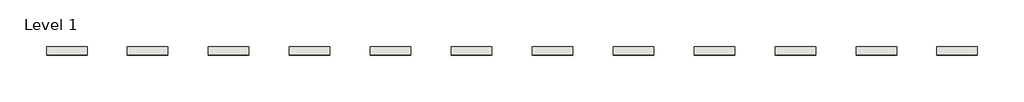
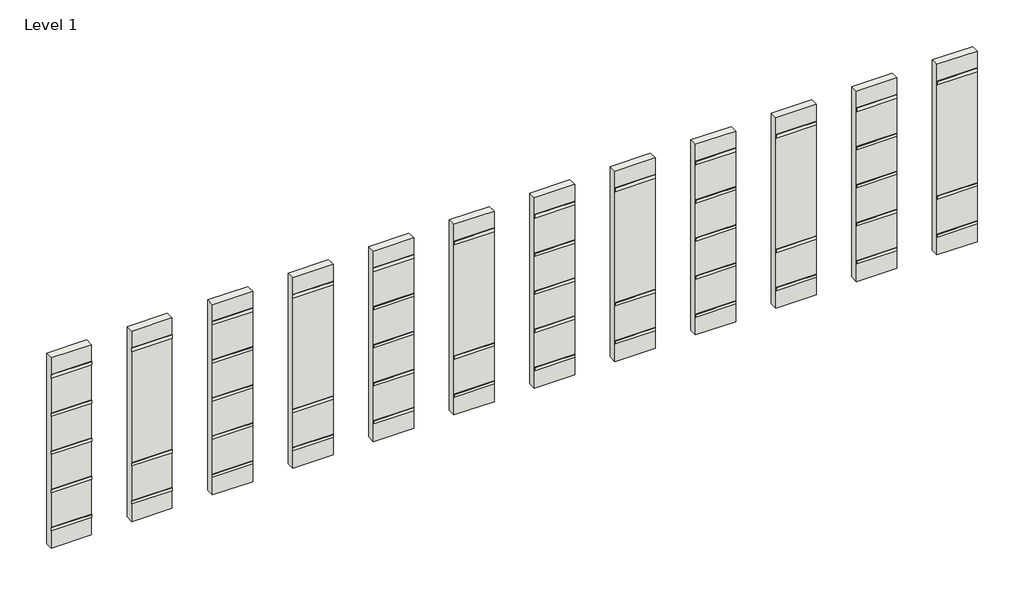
# One storey: 48 coverings, 12 walls.
"""IFC4 building model written with IfcOpenShell, lengths in millimetres."""

from ifc_helpers import new_model, si_unit, point, frame, frame_2d, origin, place, context, project, spatial, polyline, circle_curve, trimmed, segment, composite_curve, outline, extrude, element, save

model = new_model("IFC4")

# Units and contexts
model_context = context("Model", 3, world=origin())
ifc_project = project(units=[si_unit("LENGTHUNIT", "METRE", prefix="MILLI")], contexts=[model_context])

# Site, building, storey
site = spatial("IfcSite", under=ifc_project)
building = spatial("IfcBuilding", under=site)
storey = spatial("IfcBuildingStorey", under=building, Name="Level 1", Elevation=0.0)

# Coverings
placement = place(None, origin())
element("IfcCovering", 1, ObjectType="REVIGRES-URBAN-RB-8X45-RECT-ANTRACITE", at=placement, inside=storey, context=model_context, shape_type="SweptSolid", body=[
    extrude(outline(composite_curve([segment(polyline([(-6973.1153225, -25679.4779794), (-6982.9153225, -25679.4779794), (-6982.9153225, -25609.2779794)]), True, "CONTINUOUS"), segment(trimmed(circle_curve(frame_2d((-6973.1153225, -25609.2779794)), 9.8), [point((-6982.9153225, -25609.2779794))], [point((-6973.1153225, -25599.4779794))], False, "CARTESIAN"), True, "CONTINUOUS"), segment(polyline([(-6973.1153225, -25599.4779794), (-6973.1153225, -25679.4779794)]), True, "CONTINUOUS")], self_intersect=False)), frame((5592.0023157, 0.0, 0.0), z_axis=(1.0, 0.0, 0.0), x_axis=(0.0, 1.0, 0.0)), (0.0, 0.0, 1.0), 1000.0),
])
element("IfcCovering", 2, ObjectType="REVIGRES-URBAN-RB-8X60-RECT-ANTRACITE", at=placement, inside=storey, context=model_context, shape_type="SweptSolid", body=[
    extrude(outline(composite_curve([segment(polyline([(-6973.1153225, -24679.4779794), (-6981.6153225, -24679.4779794), (-6981.6153225, -24607.9779794)]), True, "CONTINUOUS"), segment(trimmed(circle_curve(frame_2d((-6973.1153225, -24607.9779794)), 8.5), [point((-6981.6153225, -24607.9779794))], [point((-6973.1153225, -24599.4779794))], False, "CARTESIAN"), True, "CONTINUOUS"), segment(polyline([(-6973.1153225, -24599.4779794), (-6973.1153225, -24679.4779794)]), True, "CONTINUOUS")], self_intersect=False)), frame((5592.0023157, 0.0, 0.0), z_axis=(1.0, 0.0, 0.0), x_axis=(0.0, 1.0, 0.0)), (0.0, 0.0, 1.0), 1000.0),
])
element("IfcCovering", 3, ObjectType="REVIGRES-URBAN-RB-8X90-RECT-ANTRACITE", at=placement, inside=storey, context=model_context, shape_type="SweptSolid", body=[
    extrude(outline(composite_curve([segment(polyline([(-6973.1153225, -23679.4779794), (-6983.6153225, -23679.4779794), (-6983.6153225, -23609.9779794)]), True, "CONTINUOUS"), segment(trimmed(circle_curve(frame_2d((-6973.1153225, -23609.9779794)), 10.5), [point((-6983.6153225, -23609.9779794))], [point((-6973.1153225, -23599.4779794))], False, "CARTESIAN"), True, "CONTINUOUS"), segment(polyline([(-6973.1153225, -23599.4779794), (-6973.1153225, -23679.4779794)]), True, "CONTINUOUS")], self_intersect=False)), frame((5592.0023157, 0.0, 0.0), z_axis=(1.0, 0.0, 0.0), x_axis=(0.0, 1.0, 0.0)), (0.0, 0.0, 1.0), 1000.0),
])
element("IfcCovering", 4, ObjectType="REVIGRES-URBAN-RB-8X120-RECT-ANTRACITE", at=placement, inside=storey, context=model_context, shape_type="SweptSolid", body=[
    extrude(outline(composite_curve([segment(polyline([(-6973.1153225, -22679.4779794), (-6982.9153225, -22679.4779794), (-6982.9153225, -22609.2779794)]), True, "CONTINUOUS"), segment(trimmed(circle_curve(frame_2d((-6973.1153225, -22609.2779794)), 9.8), [point((-6982.9153225, -22609.2779794))], [point((-6973.1153225, -22599.4779794))], False, "CARTESIAN"), True, "CONTINUOUS"), segment(polyline([(-6973.1153225, -22599.4779794), (-6973.1153225, -22679.4779794)]), True, "CONTINUOUS")], self_intersect=False)), frame((5592.0023157, 0.0, 0.0), z_axis=(1.0, 0.0, 0.0), x_axis=(0.0, 1.0, 0.0)), (0.0, 0.0, 1.0), 1000.0),
])
element("IfcCovering", 5, ObjectType="REVIGRES-URBAN-RB-9.5X30-RECT-ANTRACITE", at=placement, inside=storey, context=model_context, shape_type="SweptSolid", body=[
    extrude(outline(composite_curve([segment(polyline([(-6973.1153225, -21679.4779794), (-6980.8153225, -21679.4779794), (-6980.8153225, -21592.1779794)]), True, "CONTINUOUS"), segment(trimmed(circle_curve(frame_2d((-6973.1153225, -21592.1779794)), 7.7), [point((-6980.8153225, -21592.1779794))], [point((-6973.1153225, -21584.4779794))], False, "CARTESIAN"), True, "CONTINUOUS"), segment(polyline([(-6973.1153225, -21584.4779794), (-6973.1153225, -21679.4779794)]), True, "CONTINUOUS")], self_intersect=False)), frame((5592.0023157, 0.0, 0.0), z_axis=(1.0, 0.0, 0.0), x_axis=(0.0, 1.0, 0.0)), (0.0, 0.0, 1.0), 1000.0),
])
element("IfcCovering", 6, ObjectType="REVIGRES-URBAN-RB-8X45-NAT-ANTRACITE", at=placement, inside=storey, context=model_context, shape_type="SweptSolid", body=[
    extrude(outline(composite_curve([segment(polyline([(-6973.1153225, -25679.4779794), (-6981.6153225, -25679.4779794), (-6981.6153225, -25607.9779794)]), True, "CONTINUOUS"), segment(trimmed(circle_curve(frame_2d((-6973.1153225, -25607.9779794)), 8.5), [point((-6981.6153225, -25607.9779794))], [point((-6973.1153225, -25599.4779794))], False, "CARTESIAN"), True, "CONTINUOUS"), segment(polyline([(-6973.1153225, -25599.4779794), (-6973.1153225, -25679.4779794)]), True, "CONTINUOUS")], self_intersect=False)), frame((7592.0023157, 0.0, 0.0), z_axis=(1.0, 0.0, 0.0), x_axis=(0.0, 1.0, 0.0)), (0.0, 0.0, 1.0), 1000.0),
])
element("IfcCovering", 7, ObjectType="REVIGRES-URBAN-RB-8X60-NAT-ANTRACITE", at=placement, inside=storey, context=model_context, shape_type="SweptSolid", body=[
    extrude(outline(composite_curve([segment(polyline([(-6973.1153225, -24679.4779794), (-6981.6153225, -24679.4779794), (-6981.6153225, -24607.9779794)]), True, "CONTINUOUS"), segment(trimmed(circle_curve(frame_2d((-6973.1153225, -24607.9779794)), 8.5), [point((-6981.6153225, -24607.9779794))], [point((-6973.1153225, -24599.4779794))], False, "CARTESIAN"), True, "CONTINUOUS"), segment(polyline([(-6973.1153225, -24599.4779794), (-6973.1153225, -24679.4779794)]), True, "CONTINUOUS")], self_intersect=False)), frame((7592.0023157, 0.0, 0.0), z_axis=(1.0, 0.0, 0.0), x_axis=(0.0, 1.0, 0.0)), (0.0, 0.0, 1.0), 1000.0),
])
element("IfcCovering", 8, ObjectType="REVIGRES-URBAN-RB-9.5X30-NAT-ANTRACITE", at=placement, inside=storey, context=model_context, shape_type="SweptSolid", body=[
    extrude(outline(composite_curve([segment(polyline([(-6973.1153225, -21679.4779794), (-6980.8153225, -21679.4779794), (-6980.8153225, -21592.1779794)]), True, "CONTINUOUS"), segment(trimmed(circle_curve(frame_2d((-6973.1153225, -21592.1779794)), 7.7), [point((-6980.8153225, -21592.1779794))], [point((-6973.1153225, -21584.4779794))], False, "CARTESIAN"), True, "CONTINUOUS"), segment(polyline([(-6973.1153225, -21584.4779794), (-6973.1153225, -21679.4779794)]), True, "CONTINUOUS")], self_intersect=False)), frame((7592.0023157, 0.0, 0.0), z_axis=(1.0, 0.0, 0.0), x_axis=(0.0, 1.0, 0.0)), (0.0, 0.0, 1.0), 1000.0),
])
element("IfcCovering", 9, ObjectType="REVIGRES-URBAN-RB-8X45-RECT-BONE", at=placement, inside=storey, context=model_context, shape_type="SweptSolid", body=[
    extrude(outline(composite_curve([segment(polyline([(-6973.1153225, -25679.4779794), (-6982.9153225, -25679.4779794), (-6982.9153225, -25609.2779794)]), True, "CONTINUOUS"), segment(trimmed(circle_curve(frame_2d((-6973.1153225, -25609.2779794)), 9.8), [point((-6982.9153225, -25609.2779794))], [point((-6973.1153225, -25599.4779794))], False, "CARTESIAN"), True, "CONTINUOUS"), segment(polyline([(-6973.1153225, -25599.4779794), (-6973.1153225, -25679.4779794)]), True, "CONTINUOUS")], self_intersect=False)), frame((9592.0023157, 0.0, 0.0), z_axis=(1.0, 0.0, 0.0), x_axis=(0.0, 1.0, 0.0)), (0.0, 0.0, 1.0), 1000.0),
])
element("IfcCovering", 10, ObjectType="REVIGRES-URBAN-RB-8X60-RECT-BONE", at=placement, inside=storey, context=model_context, shape_type="SweptSolid", body=[
    extrude(outline(composite_curve([segment(polyline([(-6973.1153225, -24679.4779794), (-6981.6153225, -24679.4779794), (-6981.6153225, -24607.9779794)]), True, "CONTINUOUS"), segment(trimmed(circle_curve(frame_2d((-6973.1153225, -24607.9779794)), 8.5), [point((-6981.6153225, -24607.9779794))], [point((-6973.1153225, -24599.4779794))], False, "CARTESIAN"), True, "CONTINUOUS"), segment(polyline([(-6973.1153225, -24599.4779794), (-6973.1153225, -24679.4779794)]), True, "CONTINUOUS")], self_intersect=False)), frame((9592.0023157, 0.0, 0.0), z_axis=(1.0, 0.0, 0.0), x_axis=(0.0, 1.0, 0.0)), (0.0, 0.0, 1.0), 1000.0),
])
element("IfcCovering", 11, ObjectType="REVIGRES-URBAN-RB-8X90-RECT-BONE", at=placement, inside=storey, context=model_context, shape_type="SweptSolid", body=[
    extrude(outline(composite_curve([segment(polyline([(-6973.1153225, -23679.4779794), (-6983.6153225, -23679.4779794), (-6983.6153225, -23609.9779794)]), True, "CONTINUOUS"), segment(trimmed(circle_curve(frame_2d((-6973.1153225, -23609.9779794)), 10.5), [point((-6983.6153225, -23609.9779794))], [point((-6973.1153225, -23599.4779794))], False, "CARTESIAN"), True, "CONTINUOUS"), segment(polyline([(-6973.1153225, -23599.4779794), (-6973.1153225, -23679.4779794)]), True, "CONTINUOUS")], self_intersect=False)), frame((9592.0023157, 0.0, 0.0), z_axis=(1.0, 0.0, 0.0), x_axis=(0.0, 1.0, 0.0)), (0.0, 0.0, 1.0), 1000.0),
])
element("IfcCovering", 12, ObjectType="REVIGRES-URBAN-RB-8X120-RECT-BONE", at=placement, inside=storey, context=model_context, shape_type="SweptSolid", body=[
    extrude(outline(composite_curve([segment(polyline([(-6973.1153225, -22679.4779794), (-6982.9153225, -22679.4779794), (-6982.9153225, -22609.2779794)]), True, "CONTINUOUS"), segment(trimmed(circle_curve(frame_2d((-6973.1153225, -22609.2779794)), 9.8), [point((-6982.9153225, -22609.2779794))], [point((-6973.1153225, -22599.4779794))], False, "CARTESIAN"), True, "CONTINUOUS"), segment(polyline([(-6973.1153225, -22599.4779794), (-6973.1153225, -22679.4779794)]), True, "CONTINUOUS")], self_intersect=False)), frame((9592.0023157, 0.0, 0.0), z_axis=(1.0, 0.0, 0.0), x_axis=(0.0, 1.0, 0.0)), (0.0, 0.0, 1.0), 1000.0),
])
element("IfcCovering", 13, ObjectType="REVIGRES-URBAN-RB-9.5X30-RECT-BONE", at=placement, inside=storey, context=model_context, shape_type="SweptSolid", body=[
    extrude(outline(composite_curve([segment(polyline([(-6973.1153225, -21679.4779794), (-6980.8153225, -21679.4779794), (-6980.8153225, -21592.1779794)]), True, "CONTINUOUS"), segment(trimmed(circle_curve(frame_2d((-6973.1153225, -21592.1779794)), 7.7), [point((-6980.8153225, -21592.1779794))], [point((-6973.1153225, -21584.4779794))], False, "CARTESIAN"), True, "CONTINUOUS"), segment(polyline([(-6973.1153225, -21584.4779794), (-6973.1153225, -21679.4779794)]), True, "CONTINUOUS")], self_intersect=False)), frame((9592.0023157, 0.0, 0.0), z_axis=(1.0, 0.0, 0.0), x_axis=(0.0, 1.0, 0.0)), (0.0, 0.0, 1.0), 1000.0),
])
element("IfcCovering", 14, ObjectType="REVIGRES-URBAN-RB-8X45-NAT-BONE", at=placement, inside=storey, context=model_context, shape_type="SweptSolid", body=[
    extrude(outline(composite_curve([segment(polyline([(-6973.1153225, -25679.4779794), (-6981.6153225, -25679.4779794), (-6981.6153225, -25607.9779794)]), True, "CONTINUOUS"), segment(trimmed(circle_curve(frame_2d((-6973.1153225, -25607.9779794)), 8.5), [point((-6981.6153225, -25607.9779794))], [point((-6973.1153225, -25599.4779794))], False, "CARTESIAN"), True, "CONTINUOUS"), segment(polyline([(-6973.1153225, -25599.4779794), (-6973.1153225, -25679.4779794)]), True, "CONTINUOUS")], self_intersect=False)), frame((11592.0023157, 0.0, 0.0), z_axis=(1.0, 0.0, 0.0), x_axis=(0.0, 1.0, 0.0)), (0.0, 0.0, 1.0), 1000.0),
])
element("IfcCovering", 15, ObjectType="REVIGRES-URBAN-RB-8X60-NAT-BONE", at=placement, inside=storey, context=model_context, shape_type="SweptSolid", body=[
    extrude(outline(composite_curve([segment(polyline([(-6973.1153225, -24679.4779794), (-6981.6153225, -24679.4779794), (-6981.6153225, -24607.9779794)]), True, "CONTINUOUS"), segment(trimmed(circle_curve(frame_2d((-6973.1153225, -24607.9779794)), 8.5), [point((-6981.6153225, -24607.9779794))], [point((-6973.1153225, -24599.4779794))], False, "CARTESIAN"), True, "CONTINUOUS"), segment(polyline([(-6973.1153225, -24599.4779794), (-6973.1153225, -24679.4779794)]), True, "CONTINUOUS")], self_intersect=False)), frame((11592.0023157, 0.0, 0.0), z_axis=(1.0, 0.0, 0.0), x_axis=(0.0, 1.0, 0.0)), (0.0, 0.0, 1.0), 1000.0),
])
element("IfcCovering", 16, ObjectType="REVIGRES-URBAN-RB-9.5X30-NAT-BONE", at=placement, inside=storey, context=model_context, shape_type="SweptSolid", body=[
    extrude(outline(composite_curve([segment(polyline([(-6973.1153225, -21679.4779794), (-6980.8153225, -21679.4779794), (-6980.8153225, -21592.1779794)]), True, "CONTINUOUS"), segment(trimmed(circle_curve(frame_2d((-6973.1153225, -21592.1779794)), 7.7), [point((-6980.8153225, -21592.1779794))], [point((-6973.1153225, -21584.4779794))], False, "CARTESIAN"), True, "CONTINUOUS"), segment(polyline([(-6973.1153225, -21584.4779794), (-6973.1153225, -21679.4779794)]), True, "CONTINUOUS")], self_intersect=False)), frame((11592.0023157, 0.0, 0.0), z_axis=(1.0, 0.0, 0.0), x_axis=(0.0, 1.0, 0.0)), (0.0, 0.0, 1.0), 1000.0),
])
element("IfcCovering", 17, ObjectType="REVIGRES-URBAN-RB-8X45-RECT-CRAFT", at=placement, inside=storey, context=model_context, shape_type="SweptSolid", body=[
    extrude(outline(composite_curve([segment(polyline([(-6973.1153225, -25679.4779794), (-6982.9153225, -25679.4779794), (-6982.9153225, -25609.2779794)]), True, "CONTINUOUS"), segment(trimmed(circle_curve(frame_2d((-6973.1153225, -25609.2779794)), 9.8), [point((-6982.9153225, -25609.2779794))], [point((-6973.1153225, -25599.4779794))], False, "CARTESIAN"), True, "CONTINUOUS"), segment(polyline([(-6973.1153225, -25599.4779794), (-6973.1153225, -25679.4779794)]), True, "CONTINUOUS")], self_intersect=False)), frame((13592.0023157, 0.0, 0.0), z_axis=(1.0, 0.0, 0.0), x_axis=(0.0, 1.0, 0.0)), (0.0, 0.0, 1.0), 1000.0),
])
element("IfcCovering", 18, ObjectType="REVIGRES-URBAN-RB-8X60-RECT-CRAFT", at=placement, inside=storey, context=model_context, shape_type="SweptSolid", body=[
    extrude(outline(composite_curve([segment(polyline([(-6973.1153225, -24679.4779794), (-6981.6153225, -24679.4779794), (-6981.6153225, -24607.9779794)]), True, "CONTINUOUS"), segment(trimmed(circle_curve(frame_2d((-6973.1153225, -24607.9779794)), 8.5), [point((-6981.6153225, -24607.9779794))], [point((-6973.1153225, -24599.4779794))], False, "CARTESIAN"), True, "CONTINUOUS"), segment(polyline([(-6973.1153225, -24599.4779794), (-6973.1153225, -24679.4779794)]), True, "CONTINUOUS")], self_intersect=False)), frame((13592.0023157, 0.0, 0.0), z_axis=(1.0, 0.0, 0.0), x_axis=(0.0, 1.0, 0.0)), (0.0, 0.0, 1.0), 1000.0),
])
element("IfcCovering", 19, ObjectType="REVIGRES-URBAN-RB-8X90-RECT-CRAFT", at=placement, inside=storey, context=model_context, shape_type="SweptSolid", body=[
    extrude(outline(composite_curve([segment(polyline([(-6973.1153225, -23679.4779794), (-6983.6153225, -23679.4779794), (-6983.6153225, -23609.9779794)]), True, "CONTINUOUS"), segment(trimmed(circle_curve(frame_2d((-6973.1153225, -23609.9779794)), 10.5), [point((-6983.6153225, -23609.9779794))], [point((-6973.1153225, -23599.4779794))], False, "CARTESIAN"), True, "CONTINUOUS"), segment(polyline([(-6973.1153225, -23599.4779794), (-6973.1153225, -23679.4779794)]), True, "CONTINUOUS")], self_intersect=False)), frame((13592.0023157, 0.0, 0.0), z_axis=(1.0, 0.0, 0.0), x_axis=(0.0, 1.0, 0.0)), (0.0, 0.0, 1.0), 1000.0),
])
element("IfcCovering", 20, ObjectType="REVIGRES-URBAN-RB-8X120-RECT-CRAFT", at=placement, inside=storey, context=model_context, shape_type="SweptSolid", body=[
    extrude(outline(composite_curve([segment(polyline([(-6973.1153225, -22679.4779794), (-6982.9153225, -22679.4779794), (-6982.9153225, -22609.2779794)]), True, "CONTINUOUS"), segment(trimmed(circle_curve(frame_2d((-6973.1153225, -22609.2779794)), 9.8), [point((-6982.9153225, -22609.2779794))], [point((-6973.1153225, -22599.4779794))], False, "CARTESIAN"), True, "CONTINUOUS"), segment(polyline([(-6973.1153225, -22599.4779794), (-6973.1153225, -22679.4779794)]), True, "CONTINUOUS")], self_intersect=False)), frame((13592.0023157, 0.0, 0.0), z_axis=(1.0, 0.0, 0.0), x_axis=(0.0, 1.0, 0.0)), (0.0, 0.0, 1.0), 1000.0),
])
element("IfcCovering", 21, ObjectType="REVIGRES-URBAN-RB-9.5X30-RECT-CRAFT", at=placement, inside=storey, context=model_context, shape_type="SweptSolid", body=[
    extrude(outline(composite_curve([segment(polyline([(-6973.1153225, -21679.4779794), (-6980.8153225, -21679.4779794), (-6980.8153225, -21592.1779794)]), True, "CONTINUOUS"), segment(trimmed(circle_curve(frame_2d((-6973.1153225, -21592.1779794)), 7.7), [point((-6980.8153225, -21592.1779794))], [point((-6973.1153225, -21584.4779794))], False, "CARTESIAN"), True, "CONTINUOUS"), segment(polyline([(-6973.1153225, -21584.4779794), (-6973.1153225, -21679.4779794)]), True, "CONTINUOUS")], self_intersect=False)), frame((13592.0023157, 0.0, 0.0), z_axis=(1.0, 0.0, 0.0), x_axis=(0.0, 1.0, 0.0)), (0.0, 0.0, 1.0), 1000.0),
])
element("IfcCovering", 22, ObjectType="REVIGRES-URBAN-RB-8X45-NAT-CRAFT", at=placement, inside=storey, context=model_context, shape_type="SweptSolid", body=[
    extrude(outline(composite_curve([segment(polyline([(-6973.1153225, -25679.4779794), (-6981.6153225, -25679.4779794), (-6981.6153225, -25607.9779794)]), True, "CONTINUOUS"), segment(trimmed(circle_curve(frame_2d((-6973.1153225, -25607.9779794)), 8.5), [point((-6981.6153225, -25607.9779794))], [point((-6973.1153225, -25599.4779794))], False, "CARTESIAN"), True, "CONTINUOUS"), segment(polyline([(-6973.1153225, -25599.4779794), (-6973.1153225, -25679.4779794)]), True, "CONTINUOUS")], self_intersect=False)), frame((15592.0023157, 0.0, 0.0), z_axis=(1.0, 0.0, 0.0), x_axis=(0.0, 1.0, 0.0)), (0.0, 0.0, 1.0), 1000.0),
])
element("IfcCovering", 23, ObjectType="REVIGRES-URBAN-RB-8X60-NAT-CRAFT", at=placement, inside=storey, context=model_context, shape_type="SweptSolid", body=[
    extrude(outline(composite_curve([segment(polyline([(-6973.1153225, -24679.4779794), (-6981.6153225, -24679.4779794), (-6981.6153225, -24607.9779794)]), True, "CONTINUOUS"), segment(trimmed(circle_curve(frame_2d((-6973.1153225, -24607.9779794)), 8.5), [point((-6981.6153225, -24607.9779794))], [point((-6973.1153225, -24599.4779794))], False, "CARTESIAN"), True, "CONTINUOUS"), segment(polyline([(-6973.1153225, -24599.4779794), (-6973.1153225, -24679.4779794)]), True, "CONTINUOUS")], self_intersect=False)), frame((15592.0023157, 0.0, 0.0), z_axis=(1.0, 0.0, 0.0), x_axis=(0.0, 1.0, 0.0)), (0.0, 0.0, 1.0), 1000.0),
])
element("IfcCovering", 24, ObjectType="REVIGRES-URBAN-RB-9.5X30-NAT-CRAFT", at=placement, inside=storey, context=model_context, shape_type="SweptSolid", body=[
    extrude(outline(composite_curve([segment(polyline([(-6973.1153225, -21679.4779794), (-6980.8153225, -21679.4779794), (-6980.8153225, -21592.1779794)]), True, "CONTINUOUS"), segment(trimmed(circle_curve(frame_2d((-6973.1153225, -21592.1779794)), 7.7), [point((-6980.8153225, -21592.1779794))], [point((-6973.1153225, -21584.4779794))], False, "CARTESIAN"), True, "CONTINUOUS"), segment(polyline([(-6973.1153225, -21584.4779794), (-6973.1153225, -21679.4779794)]), True, "CONTINUOUS")], self_intersect=False)), frame((15592.0023157, 0.0, 0.0), z_axis=(1.0, 0.0, 0.0), x_axis=(0.0, 1.0, 0.0)), (0.0, 0.0, 1.0), 1000.0),
])
element("IfcCovering", 25, ObjectType="REVIGRES-URBAN-RB-8X45-RECT-FOG", at=placement, inside=storey, context=model_context, shape_type="SweptSolid", body=[
    extrude(outline(composite_curve([segment(polyline([(-6973.1153225, -25679.4779794), (-6982.9153225, -25679.4779794), (-6982.9153225, -25609.2779794)]), True, "CONTINUOUS"), segment(trimmed(circle_curve(frame_2d((-6973.1153225, -25609.2779794)), 9.8), [point((-6982.9153225, -25609.2779794))], [point((-6973.1153225, -25599.4779794))], False, "CARTESIAN"), True, "CONTINUOUS"), segment(polyline([(-6973.1153225, -25599.4779794), (-6973.1153225, -25679.4779794)]), True, "CONTINUOUS")], self_intersect=False)), frame((17592.0023157, 0.0, 0.0), z_axis=(1.0, 0.0, 0.0), x_axis=(0.0, 1.0, 0.0)), (0.0, 0.0, 1.0), 1000.0),
])
element("IfcCovering", 26, ObjectType="REVIGRES-URBAN-RB-8X60-RECT-FOG", at=placement, inside=storey, context=model_context, shape_type="SweptSolid", body=[
    extrude(outline(composite_curve([segment(polyline([(-6973.1153225, -24679.4779794), (-6981.6153225, -24679.4779794), (-6981.6153225, -24607.9779794)]), True, "CONTINUOUS"), segment(trimmed(circle_curve(frame_2d((-6973.1153225, -24607.9779794)), 8.5), [point((-6981.6153225, -24607.9779794))], [point((-6973.1153225, -24599.4779794))], False, "CARTESIAN"), True, "CONTINUOUS"), segment(polyline([(-6973.1153225, -24599.4779794), (-6973.1153225, -24679.4779794)]), True, "CONTINUOUS")], self_intersect=False)), frame((17592.0023157, 0.0, 0.0), z_axis=(1.0, 0.0, 0.0), x_axis=(0.0, 1.0, 0.0)), (0.0, 0.0, 1.0), 1000.0),
])
element("IfcCovering", 27, ObjectType="REVIGRES-URBAN-RB-8X90-RECT-FOG", at=placement, inside=storey, context=model_context, shape_type="SweptSolid", body=[
    extrude(outline(composite_curve([segment(polyline([(-6973.1153225, -23679.4779794), (-6983.6153225, -23679.4779794), (-6983.6153225, -23609.9779794)]), True, "CONTINUOUS"), segment(trimmed(circle_curve(frame_2d((-6973.1153225, -23609.9779794)), 10.5), [point((-6983.6153225, -23609.9779794))], [point((-6973.1153225, -23599.4779794))], False, "CARTESIAN"), True, "CONTINUOUS"), segment(polyline([(-6973.1153225, -23599.4779794), (-6973.1153225, -23679.4779794)]), True, "CONTINUOUS")], self_intersect=False)), frame((17592.0023157, 0.0, 0.0), z_axis=(1.0, 0.0, 0.0), x_axis=(0.0, 1.0, 0.0)), (0.0, 0.0, 1.0), 1000.0),
])
element("IfcCovering", 28, ObjectType="REVIGRES-URBAN-RB-8X120-RECT-FOG", at=placement, inside=storey, context=model_context, shape_type="SweptSolid", body=[
    extrude(outline(composite_curve([segment(polyline([(-6973.1153225, -22679.4779794), (-6982.9153225, -22679.4779794), (-6982.9153225, -22609.2779794)]), True, "CONTINUOUS"), segment(trimmed(circle_curve(frame_2d((-6973.1153225, -22609.2779794)), 9.8), [point((-6982.9153225, -22609.2779794))], [point((-6973.1153225, -22599.4779794))], False, "CARTESIAN"), True, "CONTINUOUS"), segment(polyline([(-6973.1153225, -22599.4779794), (-6973.1153225, -22679.4779794)]), True, "CONTINUOUS")], self_intersect=False)), frame((17592.0023157, 0.0, 0.0), z_axis=(1.0, 0.0, 0.0), x_axis=(0.0, 1.0, 0.0)), (0.0, 0.0, 1.0), 1000.0),
])
element("IfcCovering", 29, ObjectType="REVIGRES-URBAN-RB-9.5X30-RECT-FOG", at=placement, inside=storey, context=model_context, shape_type="SweptSolid", body=[
    extrude(outline(composite_curve([segment(polyline([(-6973.1153225, -21679.4779794), (-6980.8153225, -21679.4779794), (-6980.8153225, -21592.1779794)]), True, "CONTINUOUS"), segment(trimmed(circle_curve(frame_2d((-6973.1153225, -21592.1779794)), 7.7), [point((-6980.8153225, -21592.1779794))], [point((-6973.1153225, -21584.4779794))], False, "CARTESIAN"), True, "CONTINUOUS"), segment(polyline([(-6973.1153225, -21584.4779794), (-6973.1153225, -21679.4779794)]), True, "CONTINUOUS")], self_intersect=False)), frame((17592.0023157, 0.0, 0.0), z_axis=(1.0, 0.0, 0.0), x_axis=(0.0, 1.0, 0.0)), (0.0, 0.0, 1.0), 1000.0),
])
element("IfcCovering", 30, ObjectType="REVIGRES-URBAN-RB-8X45-NAT-FOG", at=placement, inside=storey, context=model_context, shape_type="SweptSolid", body=[
    extrude(outline(composite_curve([segment(polyline([(-6973.1153225, -25679.4779794), (-6981.6153225, -25679.4779794), (-6981.6153225, -25607.9779794)]), True, "CONTINUOUS"), segment(trimmed(circle_curve(frame_2d((-6973.1153225, -25607.9779794)), 8.5), [point((-6981.6153225, -25607.9779794))], [point((-6973.1153225, -25599.4779794))], False, "CARTESIAN"), True, "CONTINUOUS"), segment(polyline([(-6973.1153225, -25599.4779794), (-6973.1153225, -25679.4779794)]), True, "CONTINUOUS")], self_intersect=False)), frame((19592.0023157, 0.0, 0.0), z_axis=(1.0, 0.0, 0.0), x_axis=(0.0, 1.0, 0.0)), (0.0, 0.0, 1.0), 1000.0),
])
element("IfcCovering", 31, ObjectType="REVIGRES-URBAN-RB-8X60-NAT-FOG", at=placement, inside=storey, context=model_context, shape_type="SweptSolid", body=[
    extrude(outline(composite_curve([segment(polyline([(-6973.1153225, -24679.4779794), (-6981.6153225, -24679.4779794), (-6981.6153225, -24607.9779794)]), True, "CONTINUOUS"), segment(trimmed(circle_curve(frame_2d((-6973.1153225, -24607.9779794)), 8.5), [point((-6981.6153225, -24607.9779794))], [point((-6973.1153225, -24599.4779794))], False, "CARTESIAN"), True, "CONTINUOUS"), segment(polyline([(-6973.1153225, -24599.4779794), (-6973.1153225, -24679.4779794)]), True, "CONTINUOUS")], self_intersect=False)), frame((19592.0023157, 0.0, 0.0), z_axis=(1.0, 0.0, 0.0), x_axis=(0.0, 1.0, 0.0)), (0.0, 0.0, 1.0), 1000.0),
])
element("IfcCovering", 32, ObjectType="REVIGRES-URBAN-RB-9.5X30-NAT-FOG", at=placement, inside=storey, context=model_context, shape_type="SweptSolid", body=[
    extrude(outline(composite_curve([segment(polyline([(-6973.1153225, -21679.4779794), (-6980.8153225, -21679.4779794), (-6980.8153225, -21592.1779794)]), True, "CONTINUOUS"), segment(trimmed(circle_curve(frame_2d((-6973.1153225, -21592.1779794)), 7.7), [point((-6980.8153225, -21592.1779794))], [point((-6973.1153225, -21584.4779794))], False, "CARTESIAN"), True, "CONTINUOUS"), segment(polyline([(-6973.1153225, -21584.4779794), (-6973.1153225, -21679.4779794)]), True, "CONTINUOUS")], self_intersect=False)), frame((19592.0023157, 0.0, 0.0), z_axis=(1.0, 0.0, 0.0), x_axis=(0.0, 1.0, 0.0)), (0.0, 0.0, 1.0), 1000.0),
])
element("IfcCovering", 33, ObjectType="REVIGRES-URBAN-RB-8X45-RECT-GRIS", at=placement, inside=storey, context=model_context, shape_type="SweptSolid", body=[
    extrude(outline(composite_curve([segment(polyline([(-6973.1153225, -25679.4779794), (-6982.9153225, -25679.4779794), (-6982.9153225, -25609.2779794)]), True, "CONTINUOUS"), segment(trimmed(circle_curve(frame_2d((-6973.1153225, -25609.2779794)), 9.8), [point((-6982.9153225, -25609.2779794))], [point((-6973.1153225, -25599.4779794))], False, "CARTESIAN"), True, "CONTINUOUS"), segment(polyline([(-6973.1153225, -25599.4779794), (-6973.1153225, -25679.4779794)]), True, "CONTINUOUS")], self_intersect=False)), frame((21592.0023157, 0.0, 0.0), z_axis=(1.0, 0.0, 0.0), x_axis=(0.0, 1.0, 0.0)), (0.0, 0.0, 1.0), 1000.0),
])
element("IfcCovering", 34, ObjectType="REVIGRES-URBAN-RB-8X60-RECT-GRIS", at=placement, inside=storey, context=model_context, shape_type="SweptSolid", body=[
    extrude(outline(composite_curve([segment(polyline([(-6973.1153225, -24679.4779794), (-6981.6153225, -24679.4779794), (-6981.6153225, -24607.9779794)]), True, "CONTINUOUS"), segment(trimmed(circle_curve(frame_2d((-6973.1153225, -24607.9779794)), 8.5), [point((-6981.6153225, -24607.9779794))], [point((-6973.1153225, -24599.4779794))], False, "CARTESIAN"), True, "CONTINUOUS"), segment(polyline([(-6973.1153225, -24599.4779794), (-6973.1153225, -24679.4779794)]), True, "CONTINUOUS")], self_intersect=False)), frame((21592.0023157, 0.0, 0.0), z_axis=(1.0, 0.0, 0.0), x_axis=(0.0, 1.0, 0.0)), (0.0, 0.0, 1.0), 1000.0),
])
element("IfcCovering", 35, ObjectType="REVIGRES-URBAN-RB-8X90-RECT-GRIS", at=placement, inside=storey, context=model_context, shape_type="SweptSolid", body=[
    extrude(outline(composite_curve([segment(polyline([(-6973.1153225, -23679.4779794), (-6983.6153225, -23679.4779794), (-6983.6153225, -23609.9779794)]), True, "CONTINUOUS"), segment(trimmed(circle_curve(frame_2d((-6973.1153225, -23609.9779794)), 10.5), [point((-6983.6153225, -23609.9779794))], [point((-6973.1153225, -23599.4779794))], False, "CARTESIAN"), True, "CONTINUOUS"), segment(polyline([(-6973.1153225, -23599.4779794), (-6973.1153225, -23679.4779794)]), True, "CONTINUOUS")], self_intersect=False)), frame((21592.0023157, 0.0, 0.0), z_axis=(1.0, 0.0, 0.0), x_axis=(0.0, 1.0, 0.0)), (0.0, 0.0, 1.0), 1000.0),
])
element("IfcCovering", 36, ObjectType="REVIGRES-URBAN-RB-8X120-RECT-GRIS", at=placement, inside=storey, context=model_context, shape_type="SweptSolid", body=[
    extrude(outline(composite_curve([segment(polyline([(-6973.1153225, -22679.4779794), (-6982.9153225, -22679.4779794), (-6982.9153225, -22609.2779794)]), True, "CONTINUOUS"), segment(trimmed(circle_curve(frame_2d((-6973.1153225, -22609.2779794)), 9.8), [point((-6982.9153225, -22609.2779794))], [point((-6973.1153225, -22599.4779794))], False, "CARTESIAN"), True, "CONTINUOUS"), segment(polyline([(-6973.1153225, -22599.4779794), (-6973.1153225, -22679.4779794)]), True, "CONTINUOUS")], self_intersect=False)), frame((21592.0023157, 0.0, 0.0), z_axis=(1.0, 0.0, 0.0), x_axis=(0.0, 1.0, 0.0)), (0.0, 0.0, 1.0), 1000.0),
])
element("IfcCovering", 37, ObjectType="REVIGRES-URBAN-RB-9.5X30-RECT-GRIS", at=placement, inside=storey, context=model_context, shape_type="SweptSolid", body=[
    extrude(outline(composite_curve([segment(polyline([(-6973.1153225, -21679.4779794), (-6980.8153225, -21679.4779794), (-6980.8153225, -21592.1779794)]), True, "CONTINUOUS"), segment(trimmed(circle_curve(frame_2d((-6973.1153225, -21592.1779794)), 7.7), [point((-6980.8153225, -21592.1779794))], [point((-6973.1153225, -21584.4779794))], False, "CARTESIAN"), True, "CONTINUOUS"), segment(polyline([(-6973.1153225, -21584.4779794), (-6973.1153225, -21679.4779794)]), True, "CONTINUOUS")], self_intersect=False)), frame((21592.0023157, 0.0, 0.0), z_axis=(1.0, 0.0, 0.0), x_axis=(0.0, 1.0, 0.0)), (0.0, 0.0, 1.0), 1000.0),
])
element("IfcCovering", 38, ObjectType="REVIGRES-URBAN-RB-8X45-NAT-GRIS", at=placement, inside=storey, context=model_context, shape_type="SweptSolid", body=[
    extrude(outline(composite_curve([segment(polyline([(-6973.1153225, -25679.4779794), (-6981.6153225, -25679.4779794), (-6981.6153225, -25607.9779794)]), True, "CONTINUOUS"), segment(trimmed(circle_curve(frame_2d((-6973.1153225, -25607.9779794)), 8.5), [point((-6981.6153225, -25607.9779794))], [point((-6973.1153225, -25599.4779794))], False, "CARTESIAN"), True, "CONTINUOUS"), segment(polyline([(-6973.1153225, -25599.4779794), (-6973.1153225, -25679.4779794)]), True, "CONTINUOUS")], self_intersect=False)), frame((23592.0023157, 0.0, 0.0), z_axis=(1.0, 0.0, 0.0), x_axis=(0.0, 1.0, 0.0)), (0.0, 0.0, 1.0), 1000.0),
])
element("IfcCovering", 39, ObjectType="REVIGRES-URBAN-RB-8X60-NAT-GRIS", at=placement, inside=storey, context=model_context, shape_type="SweptSolid", body=[
    extrude(outline(composite_curve([segment(polyline([(-6973.1153225, -24679.4779794), (-6981.6153225, -24679.4779794), (-6981.6153225, -24607.9779794)]), True, "CONTINUOUS"), segment(trimmed(circle_curve(frame_2d((-6973.1153225, -24607.9779794)), 8.5), [point((-6981.6153225, -24607.9779794))], [point((-6973.1153225, -24599.4779794))], False, "CARTESIAN"), True, "CONTINUOUS"), segment(polyline([(-6973.1153225, -24599.4779794), (-6973.1153225, -24679.4779794)]), True, "CONTINUOUS")], self_intersect=False)), frame((23592.0023157, 0.0, 0.0), z_axis=(1.0, 0.0, 0.0), x_axis=(0.0, 1.0, 0.0)), (0.0, 0.0, 1.0), 1000.0),
])
element("IfcCovering", 40, ObjectType="REVIGRES-URBAN-RB-9.5X30-NAT-GRIS", at=placement, inside=storey, context=model_context, shape_type="SweptSolid", body=[
    extrude(outline(composite_curve([segment(polyline([(-6973.1153225, -21679.4779794), (-6980.8153225, -21679.4779794), (-6980.8153225, -21592.1779794)]), True, "CONTINUOUS"), segment(trimmed(circle_curve(frame_2d((-6973.1153225, -21592.1779794)), 7.7), [point((-6980.8153225, -21592.1779794))], [point((-6973.1153225, -21584.4779794))], False, "CARTESIAN"), True, "CONTINUOUS"), segment(polyline([(-6973.1153225, -21584.4779794), (-6973.1153225, -21679.4779794)]), True, "CONTINUOUS")], self_intersect=False)), frame((23592.0023157, 0.0, 0.0), z_axis=(1.0, 0.0, 0.0), x_axis=(0.0, 1.0, 0.0)), (0.0, 0.0, 1.0), 1000.0),
])
element("IfcCovering", 41, ObjectType="REVIGRES-URBAN-RB-8X45-RECT-OFFWHITE", at=placement, inside=storey, context=model_context, shape_type="SweptSolid", body=[
    extrude(outline(composite_curve([segment(polyline([(-6973.1153225, -25679.4779794), (-6982.9153225, -25679.4779794), (-6982.9153225, -25609.2779794)]), True, "CONTINUOUS"), segment(trimmed(circle_curve(frame_2d((-6973.1153225, -25609.2779794)), 9.8), [point((-6982.9153225, -25609.2779794))], [point((-6973.1153225, -25599.4779794))], False, "CARTESIAN"), True, "CONTINUOUS"), segment(polyline([(-6973.1153225, -25599.4779794), (-6973.1153225, -25679.4779794)]), True, "CONTINUOUS")], self_intersect=False)), frame((25592.0023157, 0.0, 0.0), z_axis=(1.0, 0.0, 0.0), x_axis=(0.0, 1.0, 0.0)), (0.0, 0.0, 1.0), 1000.0),
])
element("IfcCovering", 42, ObjectType="REVIGRES-URBAN-RB-8X60-RECT-OFFWHITE", at=placement, inside=storey, context=model_context, shape_type="SweptSolid", body=[
    extrude(outline(composite_curve([segment(polyline([(-6973.1153225, -24679.4779794), (-6981.6153225, -24679.4779794), (-6981.6153225, -24607.9779794)]), True, "CONTINUOUS"), segment(trimmed(circle_curve(frame_2d((-6973.1153225, -24607.9779794)), 8.5), [point((-6981.6153225, -24607.9779794))], [point((-6973.1153225, -24599.4779794))], False, "CARTESIAN"), True, "CONTINUOUS"), segment(polyline([(-6973.1153225, -24599.4779794), (-6973.1153225, -24679.4779794)]), True, "CONTINUOUS")], self_intersect=False)), frame((25592.0023157, 0.0, 0.0), z_axis=(1.0, 0.0, 0.0), x_axis=(0.0, 1.0, 0.0)), (0.0, 0.0, 1.0), 1000.0),
])
element("IfcCovering", 43, ObjectType="REVIGRES-URBAN-RB-8X90-RECT-OFFWHITE", at=placement, inside=storey, context=model_context, shape_type="SweptSolid", body=[
    extrude(outline(composite_curve([segment(polyline([(-6973.1153225, -23679.4779794), (-6983.6153225, -23679.4779794), (-6983.6153225, -23609.9779794)]), True, "CONTINUOUS"), segment(trimmed(circle_curve(frame_2d((-6973.1153225, -23609.9779794)), 10.5), [point((-6983.6153225, -23609.9779794))], [point((-6973.1153225, -23599.4779794))], False, "CARTESIAN"), True, "CONTINUOUS"), segment(polyline([(-6973.1153225, -23599.4779794), (-6973.1153225, -23679.4779794)]), True, "CONTINUOUS")], self_intersect=False)), frame((25592.0023157, 0.0, 0.0), z_axis=(1.0, 0.0, 0.0), x_axis=(0.0, 1.0, 0.0)), (0.0, 0.0, 1.0), 1000.0),
])
element("IfcCovering", 44, ObjectType="REVIGRES-URBAN-RB-8X120-RECT-OFFWHITE", at=placement, inside=storey, context=model_context, shape_type="SweptSolid", body=[
    extrude(outline(composite_curve([segment(polyline([(-6973.1153225, -22679.4779794), (-6982.9153225, -22679.4779794), (-6982.9153225, -22609.2779794)]), True, "CONTINUOUS"), segment(trimmed(circle_curve(frame_2d((-6973.1153225, -22609.2779794)), 9.8), [point((-6982.9153225, -22609.2779794))], [point((-6973.1153225, -22599.4779794))], False, "CARTESIAN"), True, "CONTINUOUS"), segment(polyline([(-6973.1153225, -22599.4779794), (-6973.1153225, -22679.4779794)]), True, "CONTINUOUS")], self_intersect=False)), frame((25592.0023157, 0.0, 0.0), z_axis=(1.0, 0.0, 0.0), x_axis=(0.0, 1.0, 0.0)), (0.0, 0.0, 1.0), 1000.0),
])
element("IfcCovering", 45, ObjectType="REVIGRES-URBAN-RB-9.5X30-RECT-OFFWHITE", at=placement, inside=storey, context=model_context, shape_type="SweptSolid", body=[
    extrude(outline(composite_curve([segment(polyline([(-6973.1153225, -21679.4779794), (-6980.8153225, -21679.4779794), (-6980.8153225, -21592.1779794)]), True, "CONTINUOUS"), segment(trimmed(circle_curve(frame_2d((-6973.1153225, -21592.1779794)), 7.7), [point((-6980.8153225, -21592.1779794))], [point((-6973.1153225, -21584.4779794))], False, "CARTESIAN"), True, "CONTINUOUS"), segment(polyline([(-6973.1153225, -21584.4779794), (-6973.1153225, -21679.4779794)]), True, "CONTINUOUS")], self_intersect=False)), frame((25592.0023157, 0.0, 0.0), z_axis=(1.0, 0.0, 0.0), x_axis=(0.0, 1.0, 0.0)), (0.0, 0.0, 1.0), 1000.0),
])
element("IfcCovering", 46, ObjectType="REVIGRES-URBAN-RB-8X45-NAT-OFFWHITE", at=placement, inside=storey, context=model_context, shape_type="SweptSolid", body=[
    extrude(outline(composite_curve([segment(polyline([(-6973.1153225, -25679.4779794), (-6981.6153225, -25679.4779794), (-6981.6153225, -25607.9779794)]), True, "CONTINUOUS"), segment(trimmed(circle_curve(frame_2d((-6973.1153225, -25607.9779794)), 8.5), [point((-6981.6153225, -25607.9779794))], [point((-6973.1153225, -25599.4779794))], False, "CARTESIAN"), True, "CONTINUOUS"), segment(polyline([(-6973.1153225, -25599.4779794), (-6973.1153225, -25679.4779794)]), True, "CONTINUOUS")], self_intersect=False)), frame((27592.0023157, 0.0, 0.0), z_axis=(1.0, 0.0, 0.0), x_axis=(0.0, 1.0, 0.0)), (0.0, 0.0, 1.0), 1000.0),
])
element("IfcCovering", 47, ObjectType="REVIGRES-URBAN-RB-8X60-NAT-OFFWHITE", at=placement, inside=storey, context=model_context, shape_type="SweptSolid", body=[
    extrude(outline(composite_curve([segment(polyline([(-6973.1153225, -24679.4779794), (-6981.6153225, -24679.4779794), (-6981.6153225, -24607.9779794)]), True, "CONTINUOUS"), segment(trimmed(circle_curve(frame_2d((-6973.1153225, -24607.9779794)), 8.5), [point((-6981.6153225, -24607.9779794))], [point((-6973.1153225, -24599.4779794))], False, "CARTESIAN"), True, "CONTINUOUS"), segment(polyline([(-6973.1153225, -24599.4779794), (-6973.1153225, -24679.4779794)]), True, "CONTINUOUS")], self_intersect=False)), frame((27592.0023157, 0.0, 0.0), z_axis=(1.0, 0.0, 0.0), x_axis=(0.0, 1.0, 0.0)), (0.0, 0.0, 1.0), 1000.0),
])
element("IfcCovering", 48, ObjectType="REVIGRES-URBAN-RB-9.5X30-NAT-OFFWHITE", at=placement, inside=storey, context=model_context, shape_type="SweptSolid", body=[
    extrude(outline(composite_curve([segment(polyline([(-6973.1153225, -21679.4779794), (-6980.8153225, -21679.4779794), (-6980.8153225, -21592.1779794)]), True, "CONTINUOUS"), segment(trimmed(circle_curve(frame_2d((-6973.1153225, -21592.1779794)), 7.7), [point((-6980.8153225, -21592.1779794))], [point((-6973.1153225, -21584.4779794))], False, "CARTESIAN"), True, "CONTINUOUS"), segment(polyline([(-6973.1153225, -21584.4779794), (-6973.1153225, -21679.4779794)]), True, "CONTINUOUS")], self_intersect=False)), frame((27592.0023157, 0.0, 0.0), z_axis=(1.0, 0.0, 0.0), x_axis=(0.0, 1.0, 0.0)), (0.0, 0.0, 1.0), 1000.0),
])

# Walls
element("IfcWall", 49, ObjectType="Wall 1", at=placement, inside=storey, context=model_context, shape_type="SweptSolid", body=[
    extrude(outline(polyline([(6592.0023157, -6973.1153225), (5592.0023157, -6973.1153225), (5592.0023157, -6773.1153225), (6592.0023157, -6773.1153225), (6592.0023157, -6973.1153225)])), frame((0.0, 0.0, -26148.3806729), z_axis=(0.0, 0.0, 1.0), x_axis=(1.0, 0.0, 0.0)), (0.0, 0.0, 1.0), 5000.0),
])
element("IfcWall", 50, ObjectType="Wall 1", at=placement, inside=storey, context=model_context, shape_type="SweptSolid", body=[
    extrude(outline(polyline([(8592.0023157, -6973.1153225), (7592.0023157, -6973.1153225), (7592.0023157, -6773.1153225), (8592.0023157, -6773.1153225), (8592.0023157, -6973.1153225)])), frame((0.0, 0.0, -26148.3806729), z_axis=(0.0, 0.0, 1.0), x_axis=(1.0, 0.0, 0.0)), (0.0, 0.0, 1.0), 5000.0),
])
element("IfcWall", 51, ObjectType="Wall 1", at=placement, inside=storey, context=model_context, shape_type="SweptSolid", body=[
    extrude(outline(polyline([(10592.0023157, -6973.1153225), (9592.0023157, -6973.1153225), (9592.0023157, -6773.1153225), (10592.0023157, -6773.1153225), (10592.0023157, -6973.1153225)])), frame((0.0, 0.0, -26148.3806729), z_axis=(0.0, 0.0, 1.0), x_axis=(1.0, 0.0, 0.0)), (0.0, 0.0, 1.0), 5000.0),
])
element("IfcWall", 52, ObjectType="Wall 1", at=placement, inside=storey, context=model_context, shape_type="SweptSolid", body=[
    extrude(outline(polyline([(12592.0023157, -6973.1153225), (11592.0023157, -6973.1153225), (11592.0023157, -6773.1153225), (12592.0023157, -6773.1153225), (12592.0023157, -6973.1153225)])), frame((0.0, 0.0, -26148.3806729), z_axis=(0.0, 0.0, 1.0), x_axis=(1.0, 0.0, 0.0)), (0.0, 0.0, 1.0), 5000.0),
])
element("IfcWall", 53, ObjectType="Wall 1", at=placement, inside=storey, context=model_context, shape_type="SweptSolid", body=[
    extrude(outline(polyline([(14592.0023157, -6973.1153225), (13592.0023157, -6973.1153225), (13592.0023157, -6773.1153225), (14592.0023157, -6773.1153225), (14592.0023157, -6973.1153225)])), frame((0.0, 0.0, -26148.3806729), z_axis=(0.0, 0.0, 1.0), x_axis=(1.0, 0.0, 0.0)), (0.0, 0.0, 1.0), 5000.0),
])
element("IfcWall", 54, ObjectType="Wall 1", at=placement, inside=storey, context=model_context, shape_type="SweptSolid", body=[
    extrude(outline(polyline([(16592.0023157, -6973.1153225), (15592.0023157, -6973.1153225), (15592.0023157, -6773.1153225), (16592.0023157, -6773.1153225), (16592.0023157, -6973.1153225)])), frame((0.0, 0.0, -26148.3806729), z_axis=(0.0, 0.0, 1.0), x_axis=(1.0, 0.0, 0.0)), (0.0, 0.0, 1.0), 5000.0),
])
element("IfcWall", 55, ObjectType="Wall 1", at=placement, inside=storey, context=model_context, shape_type="SweptSolid", body=[
    extrude(outline(polyline([(18592.0023157, -6973.1153225), (17592.0023157, -6973.1153225), (17592.0023157, -6773.1153225), (18592.0023157, -6773.1153225), (18592.0023157, -6973.1153225)])), frame((0.0, 0.0, -26148.3806729), z_axis=(0.0, 0.0, 1.0), x_axis=(1.0, 0.0, 0.0)), (0.0, 0.0, 1.0), 5000.0),
])
element("IfcWall", 56, ObjectType="Wall 1", at=placement, inside=storey, context=model_context, shape_type="SweptSolid", body=[
    extrude(outline(polyline([(20592.0023157, -6973.1153225), (19592.0023157, -6973.1153225), (19592.0023157, -6773.1153225), (20592.0023157, -6773.1153225), (20592.0023157, -6973.1153225)])), frame((0.0, 0.0, -26148.3806729), z_axis=(0.0, 0.0, 1.0), x_axis=(1.0, 0.0, 0.0)), (0.0, 0.0, 1.0), 5000.0),
])
element("IfcWall", 57, ObjectType="Wall 1", at=placement, inside=storey, context=model_context, shape_type="SweptSolid", body=[
    extrude(outline(polyline([(22592.0023157, -6973.1153225), (21592.0023157, -6973.1153225), (21592.0023157, -6773.1153225), (22592.0023157, -6773.1153225), (22592.0023157, -6973.1153225)])), frame((0.0, 0.0, -26148.3806729), z_axis=(0.0, 0.0, 1.0), x_axis=(1.0, 0.0, 0.0)), (0.0, 0.0, 1.0), 5000.0),
])
element("IfcWall", 58, ObjectType="Wall 1", at=placement, inside=storey, context=model_context, shape_type="SweptSolid", body=[
    extrude(outline(polyline([(24592.0023157, -6973.1153225), (23592.0023157, -6973.1153225), (23592.0023157, -6773.1153225), (24592.0023157, -6773.1153225), (24592.0023157, -6973.1153225)])), frame((0.0, 0.0, -26148.3806729), z_axis=(0.0, 0.0, 1.0), x_axis=(1.0, 0.0, 0.0)), (0.0, 0.0, 1.0), 5000.0),
])
element("IfcWall", 59, ObjectType="Wall 1", at=placement, inside=storey, context=model_context, shape_type="SweptSolid", body=[
    extrude(outline(polyline([(26592.0023157, -6973.1153225), (25592.0023157, -6973.1153225), (25592.0023157, -6773.1153225), (26592.0023157, -6773.1153225), (26592.0023157, -6973.1153225)])), frame((0.0, 0.0, -26148.3806729), z_axis=(0.0, 0.0, 1.0), x_axis=(1.0, 0.0, 0.0)), (0.0, 0.0, 1.0), 5000.0),
])
element("IfcWall", 60, ObjectType="Wall 1", at=placement, inside=storey, context=model_context, shape_type="SweptSolid", body=[
    extrude(outline(polyline([(28592.0023157, -6973.1153225), (27592.0023157, -6973.1153225), (27592.0023157, -6773.1153225), (28592.0023157, -6773.1153225), (28592.0023157, -6973.1153225)])), frame((0.0, 0.0, -26148.3806729), z_axis=(0.0, 0.0, 1.0), x_axis=(1.0, 0.0, 0.0)), (0.0, 0.0, 1.0), 5000.0),
])

save(model, "model.ifc")
